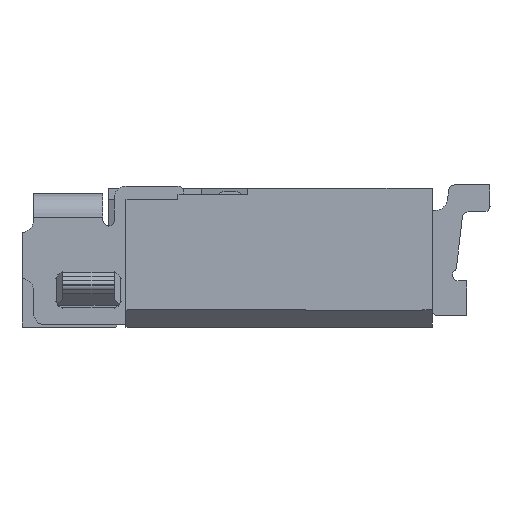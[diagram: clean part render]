
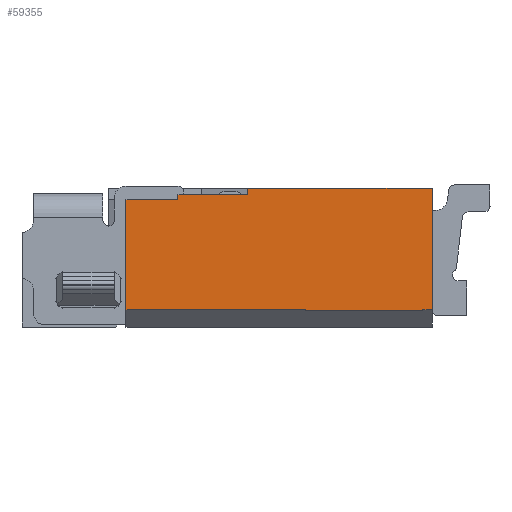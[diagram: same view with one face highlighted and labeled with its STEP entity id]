
A CAD part, left-side view. The second image highlights one B-rep face of the part: STEP entity #59355.
In plain terms, the highlighted planar face has unit normal (-1, 0, 0).
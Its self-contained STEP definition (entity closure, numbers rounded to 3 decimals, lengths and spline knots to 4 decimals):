
#461=DIRECTION('',(0.,-1.,0.));
#462=VECTOR('',#461,1.6);
#463=CARTESIAN_POINT('',(-14.25,-1.2,0.));
#464=LINE('',#463,#462);
#465=DIRECTION('',(0.,0.,-1.));
#466=VECTOR('',#465,1.05);
#467=CARTESIAN_POINT('',(-14.25,-2.8,0.));
#468=LINE('',#467,#466);
#469=DIRECTION('',(0.,0.,-1.));
#470=VECTOR('',#469,0.0041);
#471=CARTESIAN_POINT('',(-14.25,-2.7193,-1.05));
#472=LINE('',#471,#470);
#473=DIRECTION('',(0.,1.,0.));
#474=VECTOR('',#473,1.0193);
#475=CARTESIAN_POINT('',(-14.25,-2.7193,-1.0541));
#476=LINE('',#475,#474);
#477=DIRECTION('',(0.,1.,0.));
#478=VECTOR('',#477,0.45);
#479=CARTESIAN_POINT('',(-14.25,-0.6,-0.1));
#480=LINE('',#479,#478);
#497=DIRECTION('',(0.,0.,-1.));
#498=VECTOR('',#497,0.0444);
#499=CARTESIAN_POINT('',(-14.25,-0.6,-0.0556));
#500=LINE('',#499,#498);
#24394=DIRECTION('',(0.,1.,0.));
#24395=VECTOR('',#24394,0.6);
#24396=CARTESIAN_POINT('',(-14.25,-1.2,-0.0556));
#24397=LINE('',#24396,#24395);
#24614=DIRECTION('',(0.,0.,-1.));
#24615=VECTOR('',#24614,0.0556);
#24616=CARTESIAN_POINT('',(-14.25,-1.2,0.));
#24617=LINE('',#24616,#24615);
#42008=DIRECTION('',(0.,0.,-1.));
#42009=VECTOR('',#42008,0.95);
#42010=CARTESIAN_POINT('',(-14.25,-0.15,-0.1));
#42011=LINE('',#42010,#42009);
#42016=DIRECTION('',(0.,-1.,0.));
#42017=VECTOR('',#42016,0.0807);
#42018=CARTESIAN_POINT('',(-14.25,-2.7193,-1.05));
#42019=LINE('',#42018,#42017);
#42024=DIRECTION('',(0.,-1.,0.));
#42025=VECTOR('',#42024,1.55);
#42026=CARTESIAN_POINT('',(-14.25,-0.15,-1.05));
#42027=LINE('',#42026,#42025);
#42040=DIRECTION('',(0.,0.,-1.));
#42041=VECTOR('',#42040,0.0041);
#42042=CARTESIAN_POINT('',(-14.25,-1.7,-1.05));
#42043=LINE('',#42042,#42041);
#44525=CARTESIAN_POINT('',(-14.25,-2.7193,-1.0541));
#44527=VERTEX_POINT('',#44525);
#45008=CARTESIAN_POINT('',(-14.25,-2.8,-1.05));
#45009=VERTEX_POINT('',#45008);
#45011=CARTESIAN_POINT('',(-14.25,-2.8,0.));
#45013=VERTEX_POINT('',#45011);
#45486=CARTESIAN_POINT('',(-14.25,-0.6,-0.1));
#45487=CARTESIAN_POINT('',(-14.25,-0.15,-0.1));
#45488=VERTEX_POINT('',#45486);
#45489=VERTEX_POINT('',#45487);
#45490=CARTESIAN_POINT('',(-14.25,-0.6,-0.0556));
#45491=VERTEX_POINT('',#45490);
#45492=CARTESIAN_POINT('',(-14.25,-1.2,-0.0556));
#45493=VERTEX_POINT('',#45492);
#45494=CARTESIAN_POINT('',(-14.25,-1.2,0.));
#45495=VERTEX_POINT('',#45494);
#45496=CARTESIAN_POINT('',(-14.25,-2.7193,-1.05));
#45497=VERTEX_POINT('',#45496);
#45498=CARTESIAN_POINT('',(-14.25,-1.7,-1.0541));
#45499=VERTEX_POINT('',#45498);
#45500=CARTESIAN_POINT('',(-14.25,-1.7,-1.05));
#45501=VERTEX_POINT('',#45500);
#45502=CARTESIAN_POINT('',(-14.25,-0.15,-1.05));
#45503=VERTEX_POINT('',#45502);
#59326=CARTESIAN_POINT('',(-14.25,-1.475,-0.5271));
#59327=DIRECTION('',(1.,0.,0.));
#59328=DIRECTION('',(0.,-1.,0.));
#59329=AXIS2_PLACEMENT_3D('',#59326,#59327,#59328);
#59330=PLANE('',#59329);
#59332=ORIENTED_EDGE('',*,*,#59331,.F.);
#59334=ORIENTED_EDGE('',*,*,#59333,.F.);
#59336=ORIENTED_EDGE('',*,*,#59335,.F.);
#59338=ORIENTED_EDGE('',*,*,#59337,.F.);
#59339=ORIENTED_EDGE('',*,*,#59218,.T.);
#59340=ORIENTED_EDGE('',*,*,#58632,.T.);
#59342=ORIENTED_EDGE('',*,*,#59341,.F.);
#59344=ORIENTED_EDGE('',*,*,#59343,.T.);
#59346=ORIENTED_EDGE('',*,*,#59345,.T.);
#59348=ORIENTED_EDGE('',*,*,#59347,.F.);
#59350=ORIENTED_EDGE('',*,*,#59349,.F.);
#59352=ORIENTED_EDGE('',*,*,#59351,.F.);
#59353=EDGE_LOOP('',(#59332,#59334,#59336,#59338,#59339,#59340,#59342,#59344,
#59346,#59348,#59350,#59352));
#59354=FACE_OUTER_BOUND('',#59353,.F.);
#59355=ADVANCED_FACE('',(#59354),#59330,.F.);
#58632=EDGE_CURVE('',#45013,#45009,#468,.T.);
#59218=EDGE_CURVE('',#45495,#45013,#464,.T.);
#59331=EDGE_CURVE('',#45488,#45489,#480,.T.);
#59333=EDGE_CURVE('',#45491,#45488,#500,.T.);
#59335=EDGE_CURVE('',#45493,#45491,#24397,.T.);
#59337=EDGE_CURVE('',#45495,#45493,#24617,.T.);
#59341=EDGE_CURVE('',#45497,#45009,#42019,.T.);
#59343=EDGE_CURVE('',#45497,#44527,#472,.T.);
#59345=EDGE_CURVE('',#44527,#45499,#476,.T.);
#59347=EDGE_CURVE('',#45501,#45499,#42043,.T.);
#59349=EDGE_CURVE('',#45503,#45501,#42027,.T.);
#59351=EDGE_CURVE('',#45489,#45503,#42011,.T.);
